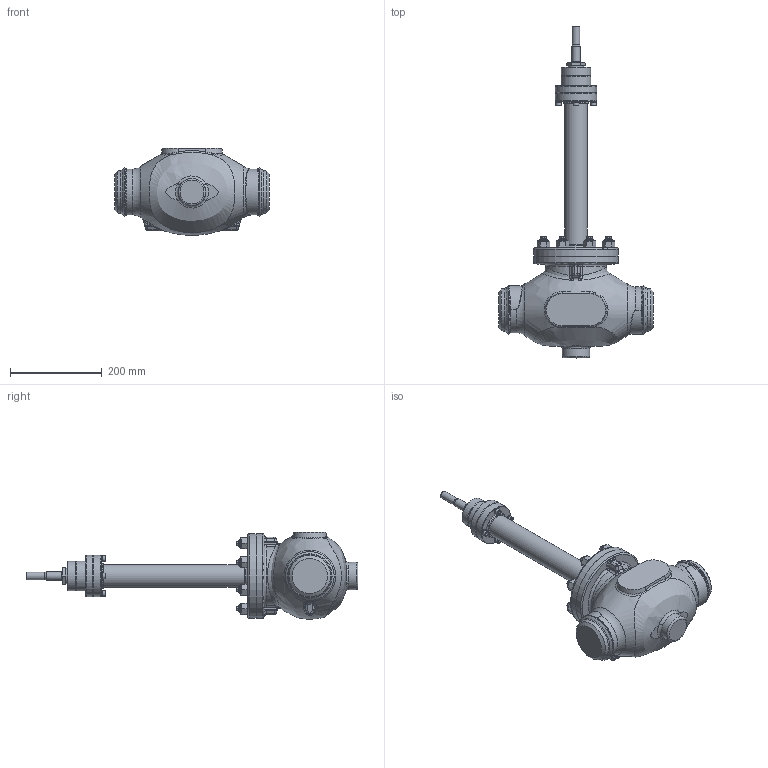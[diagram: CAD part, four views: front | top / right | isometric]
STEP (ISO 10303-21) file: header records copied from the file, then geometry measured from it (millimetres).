
FILE_DESCRIPTION(/* description */ (''),/* implementation_level */ '2;1');
FILE_NAME(/* name */ 'CV3xx_NPS_3_privarovaci_vlnovec.stp',/* time_stamp */ '2015-08-11T10:07:19+02:00',/* author */ (''),/* organization */ (''),/* preprocessor_version */ 'ST-DEVELOPER v15',/* originating_system */ 'SIEMENS PLM Software NX 8.5',/* authorisation */ '');
FILE_SCHEMA (('AP203_CONFIGURATION_CONTROLLED_3D_DESIGN_OF_MECHANICAL_PARTS_AND_ASSEMBLIES_MIM_LF { 1 0 10303 403 2 1 2}'));
Length unit declared in the file: millimetre
Products named in the file (1): adam1354300Cul7c
Bounding box: 337 x 724 x 189.99 mm (x, y, z)
Volume: 7922858 mm3; surface area: 389489.5 mm2
Topology: 1 solids, 1 shells, 754 faces, 1741 edges, 1024 vertices
Faces by surface type: plane 246, cone 196, cylinder 159, bspline 76, torus 53, sphere 24
Full cylindrical faces by diameter (mm): 7 x4, 7.76 x4, 9 x4, 11.64 x4, 12.5 x8, 16 x25, 18 x9, 24 x16, 27 x1, 33 x1, 50 x1, 50.3 x2, 55 x1, 58 x1, 60 x1, 61.6 x1, 64 x1, 65 x1, 90 x2, 106 x1, 120 x1, 184 x2
Entity records: 22889 total; most frequent: CARTESIAN_POINT 7809, DIRECTION 2991, ORIENTED_EDGE 2966, EDGE_CURVE 1483, AXIS2_PLACEMENT_3D 1312, EDGE_LOOP 1001, VERTEX_POINT 946, ADVANCED_FACE 754
